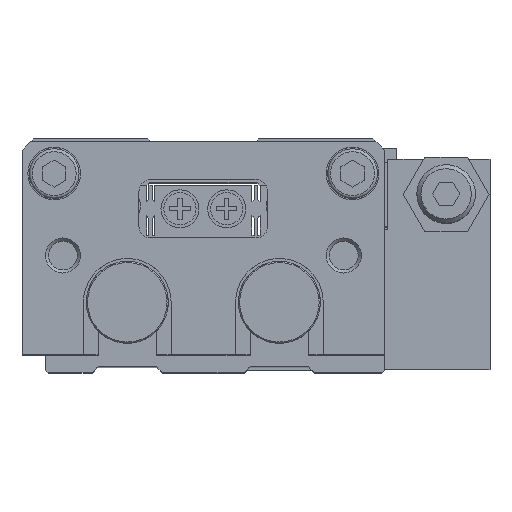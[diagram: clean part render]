
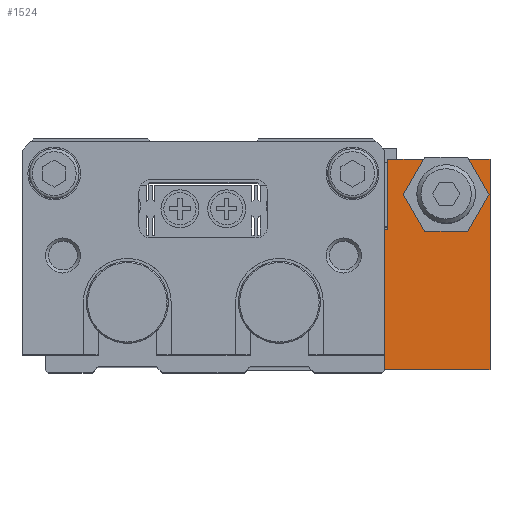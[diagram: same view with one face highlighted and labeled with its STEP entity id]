
A CAD part, top view. The second image highlights one B-rep face of the part: STEP entity #1524.
In plain terms, the highlighted planar face has unit normal (0, 0, 1) as drawn and (0, 0, -1) by its records, which use the part's own axes.
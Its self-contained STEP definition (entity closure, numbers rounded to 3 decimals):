
#1524 = ADVANCED_FACE( '', ( #3294 ), #3295, .F. );
#3294 = FACE_OUTER_BOUND( '', #5242, .T. );
#3295 = PLANE( '', #5243 );
#5242 = EDGE_LOOP( '', ( #9228, #9229, #9230, #9231, #9232, #9233, #9234, #9235, #9236, #9237, #9238, #9239 ) );
#5243 = AXIS2_PLACEMENT_3D( '', #9240, #9241, #9242 );
#9228 = ORIENTED_EDGE( '', *, *, #12035, .T. );
#9229 = ORIENTED_EDGE( '', *, *, #12036, .T. );
#9230 = ORIENTED_EDGE( '', *, *, #11810, .F. );
#9231 = ORIENTED_EDGE( '', *, *, #11876, .F. );
#9232 = ORIENTED_EDGE( '', *, *, #11307, .F. );
#9233 = ORIENTED_EDGE( '', *, *, #11968, .F. );
#9234 = ORIENTED_EDGE( '', *, *, #12037, .F. );
#9235 = ORIENTED_EDGE( '', *, *, #12038, .F. );
#9236 = ORIENTED_EDGE( '', *, *, #11811, .F. );
#9237 = ORIENTED_EDGE( '', *, *, #11062, .T. );
#9238 = ORIENTED_EDGE( '', *, *, #11931, .T. );
#9239 = ORIENTED_EDGE( '', *, *, #11622, .T. );
#9240 = CARTESIAN_POINT( '', ( 0., 0., -5.5 ) );
#9241 = DIRECTION( '', ( 0., 0., 1. ) );
#9242 = DIRECTION( '', ( 1., 0., 0. ) );
#11062 = EDGE_CURVE( '', #13260, #13266, #13268, .T. );
#11307 = EDGE_CURVE( '', #13658, #13659, #13660, .T. );
#11622 = EDGE_CURVE( '', #14131, #14132, #14133, .T. );
#11810 = EDGE_CURVE( '', #14392, #13816, #14393, .T. );
#11811 = EDGE_CURVE( '', #13260, #14394, #14395, .T. );
#11876 = EDGE_CURVE( '', #13659, #14392, #14477, .T. );
#11931 = EDGE_CURVE( '', #13266, #14131, #14546, .T. );
#11968 = EDGE_CURVE( '', #14595, #13658, #14596, .T. );
#12035 = EDGE_CURVE( '', #14132, #14681, #14682, .T. );
#12036 = EDGE_CURVE( '', #14681, #13816, #14683, .T. );
#12037 = EDGE_CURVE( '', #14684, #14595, #14685, .T. );
#12038 = EDGE_CURVE( '', #14394, #14684, #14686, .T. );
#13260 = VERTEX_POINT( '', #16306 );
#13266 = VERTEX_POINT( '', #16315 );
#13268 = LINE( '', #16318, #16319 );
#13658 = VERTEX_POINT( '', #16858 );
#13659 = VERTEX_POINT( '', #16859 );
#13660 = LINE( '', #16860, #16861 );
#13816 = VERTEX_POINT( '', #17081 );
#14131 = VERTEX_POINT( '', #17524 );
#14132 = VERTEX_POINT( '', #17525 );
#14133 = LINE( '', #17526, #17527 );
#14392 = VERTEX_POINT( '', #17882 );
#14393 = LINE( '', #17883, #17884 );
#14394 = VERTEX_POINT( '', #17885 );
#14395 = LINE( '', #17886, #17887 );
#14477 = LINE( '', #18001, #18002 );
#14546 = LINE( '', #18092, #18093 );
#14595 = VERTEX_POINT( '', #18156 );
#14596 = LINE( '', #18157, #18158 );
#14681 = VERTEX_POINT( '', #18271 );
#14682 = LINE( '', #18272, #18273 );
#14683 = LINE( '', #18274, #18275 );
#14684 = VERTEX_POINT( '', #18276 );
#14685 = LINE( '', #18277, #18278 );
#14686 = LINE( '', #18279, #18280 );
#16306 = CARTESIAN_POINT( '', ( -3.632, 0., -5.5 ) );
#16315 = CARTESIAN_POINT( '', ( -0.168, 6., -5.5 ) );
#16318 = CARTESIAN_POINT( '', ( -3.834, -0.35, -5.5 ) );
#16319 = VECTOR( '', #19230, 1000. );
#16858 = CARTESIAN_POINT( '', ( -19., 12., -5.5 ) );
#16859 = CARTESIAN_POINT( '', ( -17.5, 12., -5.5 ) );
#16860 = CARTESIAN_POINT( '', ( -19., 12., -5.5 ) );
#16861 = VECTOR( '', #19512, 1000. );
#17081 = CARTESIAN_POINT( '', ( -11.368, 0., -5.5 ) );
#17524 = CARTESIAN_POINT( '', ( -3.834, 12.35, -5.5 ) );
#17525 = CARTESIAN_POINT( '', ( -11.166, 12.35, -5.5 ) );
#17526 = CARTESIAN_POINT( '', ( -3.834, 12.35, -5.5 ) );
#17527 = VECTOR( '', #19819, 1000. );
#17882 = CARTESIAN_POINT( '', ( -17.5, 0., -5.5 ) );
#17883 = CARTESIAN_POINT( '', ( -17.5, 0., -5.5 ) );
#17884 = VECTOR( '', #19991, 1000. );
#17885 = CARTESIAN_POINT( '', ( 0., 0., -5.5 ) );
#17886 = CARTESIAN_POINT( '', ( -17.5, 0., -5.5 ) );
#17887 = VECTOR( '', #19992, 1000. );
#18001 = CARTESIAN_POINT( '', ( -17.5, 12., -5.5 ) );
#18002 = VECTOR( '', #20052, 1000. );
#18092 = CARTESIAN_POINT( '', ( -0.168, 6., -5.5 ) );
#18093 = VECTOR( '', #20095, 1000. );
#18156 = CARTESIAN_POINT( '', ( -19., 36., -5.5 ) );
#18157 = CARTESIAN_POINT( '', ( -19., 36., -5.5 ) );
#18158 = VECTOR( '', #20128, 1000. );
#18271 = CARTESIAN_POINT( '', ( -14.832, 6., -5.5 ) );
#18272 = CARTESIAN_POINT( '', ( -11.166, 12.35, -5.5 ) );
#18273 = VECTOR( '', #20184, 1000. );
#18274 = CARTESIAN_POINT( '', ( -14.832, 6., -5.5 ) );
#18275 = VECTOR( '', #20185, 1000. );
#18276 = CARTESIAN_POINT( '', ( 0., 36., -5.5 ) );
#18277 = CARTESIAN_POINT( '', ( 0., 36., -5.5 ) );
#18278 = VECTOR( '', #20186, 1000. );
#18279 = CARTESIAN_POINT( '', ( 0., 0., -5.5 ) );
#18280 = VECTOR( '', #20187, 1000. );
#19230 = DIRECTION( '', ( 0.5, 0.866, 0. ) );
#19512 = DIRECTION( '', ( 1., 0., 0. ) );
#19819 = DIRECTION( '', ( -1., 0., 0. ) );
#19991 = DIRECTION( '', ( 1., 0., 0. ) );
#19992 = DIRECTION( '', ( 1., 0., 0. ) );
#20052 = DIRECTION( '', ( 0., -1., 0. ) );
#20095 = DIRECTION( '', ( -0.5, 0.866, 0. ) );
#20128 = DIRECTION( '', ( 0., -1., 0. ) );
#20184 = DIRECTION( '', ( -0.5, -0.866, 0. ) );
#20185 = DIRECTION( '', ( 0.5, -0.866, 0. ) );
#20186 = DIRECTION( '', ( -1., 0., 0. ) );
#20187 = DIRECTION( '', ( 0., 1., 0. ) );
